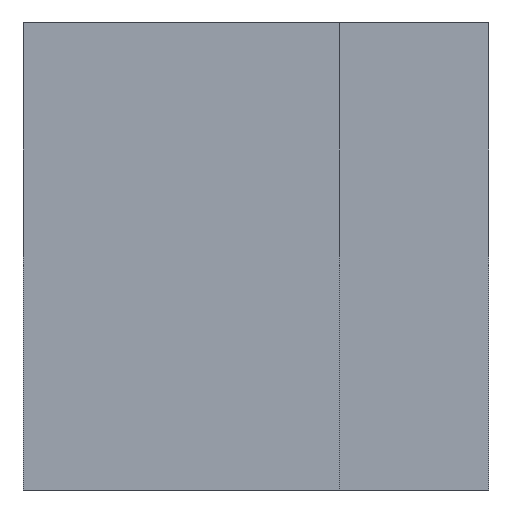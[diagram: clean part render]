
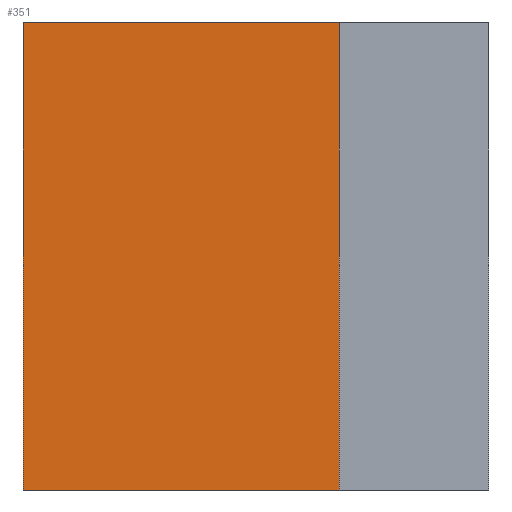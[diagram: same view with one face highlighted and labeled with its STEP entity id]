
A CAD part, front view. The second image highlights one B-rep face of the part: STEP entity #351.
In plain terms, the highlighted planar face has unit normal (0, -1, 0).
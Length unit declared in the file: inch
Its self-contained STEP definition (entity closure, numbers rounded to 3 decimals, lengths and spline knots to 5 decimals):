
#6=DIRECTION('',(0.,0.,-1.));
#7=VECTOR('',#6,0.37);
#8=CARTESIAN_POINT('',(-0.125,-0.315,0.185));
#9=LINE('',#8,#7);
#44=DIRECTION('',(0.,0.,-1.));
#45=VECTOR('',#44,0.37);
#46=CARTESIAN_POINT('',(0.125,-0.315,0.185));
#47=LINE('',#46,#45);
#106=DIRECTION('',(1.,0.,0.));
#107=VECTOR('',#106,0.25);
#108=CARTESIAN_POINT('',(-0.125,-0.315,-0.185));
#109=LINE('',#108,#107);
#114=DIRECTION('',(1.,0.,0.));
#115=VECTOR('',#114,0.25);
#116=CARTESIAN_POINT('',(-0.125,-0.315,0.185));
#117=LINE('',#116,#115);
#145=CARTESIAN_POINT('',(-0.125,-0.315,0.185));
#147=VERTEX_POINT('',#145);
#148=CARTESIAN_POINT('',(-0.125,-0.315,-0.185));
#149=VERTEX_POINT('',#148);
#152=CARTESIAN_POINT('',(0.125,-0.315,0.185));
#153=CARTESIAN_POINT('',(0.125,-0.315,-0.185));
#154=VERTEX_POINT('',#152);
#155=VERTEX_POINT('',#153);
#340=CARTESIAN_POINT('',(-0.125,-0.315,0.185));
#341=DIRECTION('',(0.,-1.,0.));
#342=DIRECTION('',(0.,0.,-1.));
#343=AXIS2_PLACEMENT_3D('',#340,#341,#342);
#344=PLANE('',#343);
#345=ORIENTED_EDGE('',*,*,#195,.F.);
#346=ORIENTED_EDGE('',*,*,#225,.T.);
#347=ORIENTED_EDGE('',*,*,#242,.T.);
#348=ORIENTED_EDGE('',*,*,#323,.F.);
#349=EDGE_LOOP('',(#345,#346,#347,#348));
#350=FACE_OUTER_BOUND('',#349,.F.);
#195=EDGE_CURVE('',#147,#149,#9,.T.);
#225=EDGE_CURVE('',#147,#154,#117,.T.);
#242=EDGE_CURVE('',#154,#155,#47,.T.);
#323=EDGE_CURVE('',#149,#155,#109,.T.);
#351=ADVANCED_FACE('',(#350),#344,.T.);
